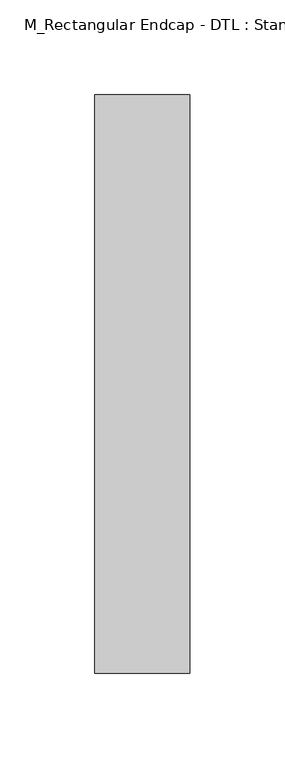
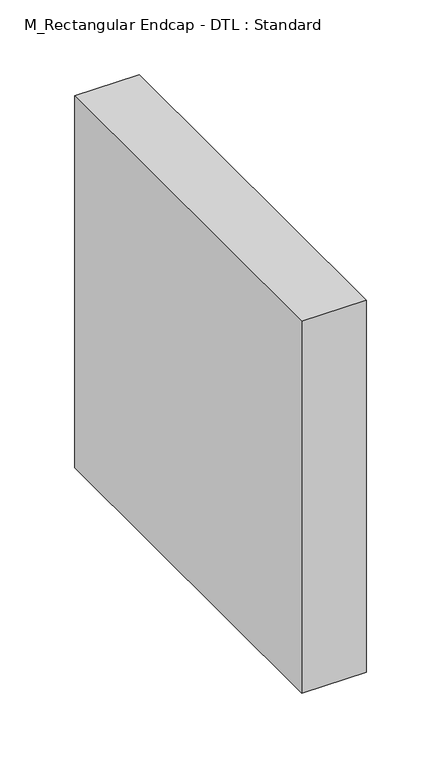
"""IFC4 building model written with IfcOpenShell, lengths in millimetres: duct fitting geometry, M_Rectangular Endcap - DTL : Standard."""

from ifc_helpers import new_model, si_unit, frame, origin, place, context, project, spatial, polyline, outline, extrude, source, transform, mapped, element, save


def m_rectangular_endcap_dtl_standard_3eeb19c4(model_context):
    return source(origin(), model_context, "Body", "SweptSolid", [
        extrude(outline(polyline([(50.0, 152.4), (50.0, -152.4), (0.0, -152.4), (0.0, 152.4), (50.0, 152.4)])), frame((0.0, 0.0, -152.4), z_axis=(0.0, 0.0, 1.0), x_axis=(1.0, 0.0, 0.0)), (0.0, 0.0, 1.0), 304.8),
    ])


if __name__ == "__main__":
    model = new_model("IFC4")
    model_context = context("Model", 3, world=origin())
    ifc_project = project(units=[si_unit("LENGTHUNIT", "METRE", prefix="MILLI")], contexts=[model_context])
    site = spatial("IfcSite", under=ifc_project)
    building = spatial("IfcBuilding", under=site)
    placement = place(None, origin())
    m_rectangular_endcap_dtl_standard_shape = m_rectangular_endcap_dtl_standard_3eeb19c4(model_context)
    element("IfcDuctFitting", 1, ObjectType="M_Rectangular Endcap - DTL : Standard", at=placement, inside=building, context=model_context, shape_type="MappedRepresentation", body=[
        mapped(m_rectangular_endcap_dtl_standard_shape, transform((0.0, 0.0, 0.0), x_axis=(1.0, 0.0, 0.0), y_axis=(0.0, 1.0, 0.0), z_axis=(0.0, 0.0, 1.0))),
    ])
    save(model, "model.ifc")
